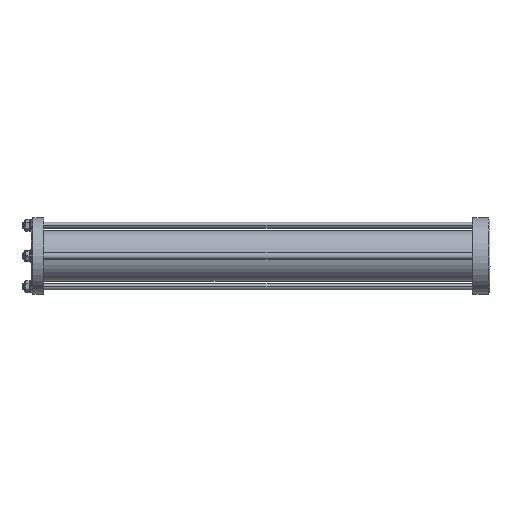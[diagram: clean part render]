
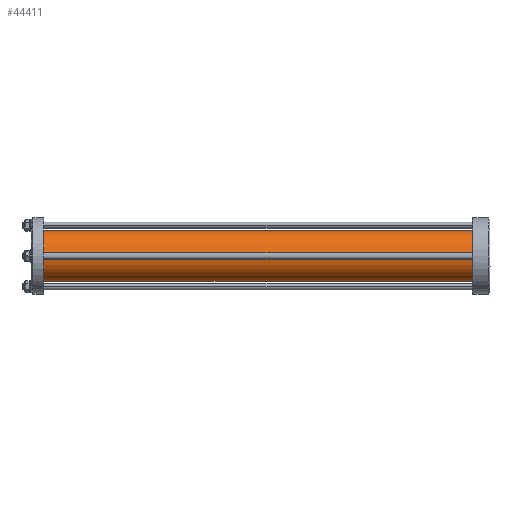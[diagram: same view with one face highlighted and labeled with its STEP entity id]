
A CAD part, left-side view. The second image highlights one B-rep face of the part: STEP entity #44411.
In plain terms, the highlighted cylindrical face has radius 24.5 mm (diameter 49 mm), a partial arc.
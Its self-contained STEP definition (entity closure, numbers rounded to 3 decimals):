
#2790 = LINE ( 'NONE', #24928, #19567 ) ;
#4120 = VERTEX_POINT ( 'NONE', #45280 ) ;
#5031 = EDGE_CURVE ( 'NONE', #34792, #33259, #28096, .T. ) ;
#6208 = DIRECTION ( 'NONE',  ( 0., -1., 0. ) ) ;
#8413 = DIRECTION ( 'NONE',  ( 0., 0., 1. ) ) ;
#9294 = VECTOR ( 'NONE', #6208, 1000. ) ;
#11185 = CIRCLE ( 'NONE', #15913, 24.5 ) ;
#13303 = EDGE_LOOP ( 'NONE', ( #57226, #54093, #42051, #32038 ) ) ;
#15913 = AXIS2_PLACEMENT_3D ( 'NONE', #34803, #56984, #34206 ) ;
#17282 = DIRECTION ( 'NONE',  ( 0., 1., 0. ) ) ;
#19484 = CARTESIAN_POINT ( 'NONE',  ( 40.045, 23.458, 77.117 ) ) ;
#19567 = VECTOR ( 'NONE', #52414, 1000. ) ;
#24928 = CARTESIAN_POINT ( 'NONE',  ( 40.045, 443.458, 77.117 ) ) ;
#27828 = AXIS2_PLACEMENT_3D ( 'NONE', #50647, #28162, #38969 ) ;
#27871 = CYLINDRICAL_SURFACE ( 'NONE', #27828, 24.5 ) ;
#28096 = LINE ( 'NONE', #55878, #9294 ) ;
#28162 = DIRECTION ( 'NONE',  ( 0., -1., 0. ) ) ;
#28450 = CARTESIAN_POINT ( 'NONE',  ( 40.045, 23.458, 126.117 ) ) ;
#28685 = CIRCLE ( 'NONE', #50433, 24.5 ) ;
#30292 = EDGE_CURVE ( 'NONE', #4120, #34792, #28685, .T. ) ;
#32038 = ORIENTED_EDGE ( 'NONE', *, *, #37191, .T. ) ;
#33259 = VERTEX_POINT ( 'NONE', #28450 ) ;
#34206 = DIRECTION ( 'NONE',  ( 0., 0., 1. ) ) ;
#34792 = VERTEX_POINT ( 'NONE', #38469 ) ;
#34803 = CARTESIAN_POINT ( 'NONE',  ( 40.045, 23.458, 101.617 ) ) ;
#36458 = FACE_OUTER_BOUND ( 'NONE', #13303, .T. ) ;
#37191 = EDGE_CURVE ( 'NONE', #48547, #33259, #11185, .T. ) ;
#38469 = CARTESIAN_POINT ( 'NONE',  ( 40.045, 443.458, 126.117 ) ) ;
#38969 = DIRECTION ( 'NONE',  ( 0., 0., -1. ) ) ;
#40589 = CARTESIAN_POINT ( 'NONE',  ( 40.045, 443.458, 101.617 ) ) ;
#42051 = ORIENTED_EDGE ( 'NONE', *, *, #48218, .T. ) ;
#44411 = ADVANCED_FACE ( 'NONE', ( #36458 ), #27871, .T. ) ;
#45280 = CARTESIAN_POINT ( 'NONE',  ( 40.045, 443.458, 77.117 ) ) ;
#48218 = EDGE_CURVE ( 'NONE', #4120, #48547, #2790, .T. ) ;
#48547 = VERTEX_POINT ( 'NONE', #19484 ) ;
#50433 = AXIS2_PLACEMENT_3D ( 'NONE', #40589, #17282, #8413 ) ;
#50647 = CARTESIAN_POINT ( 'NONE',  ( 40.045, 443.458, 101.617 ) ) ;
#52414 = DIRECTION ( 'NONE',  ( 0., -1., 0. ) ) ;
#54093 = ORIENTED_EDGE ( 'NONE', *, *, #30292, .F. ) ;
#55878 = CARTESIAN_POINT ( 'NONE',  ( 40.045, 443.458, 126.117 ) ) ;
#56984 = DIRECTION ( 'NONE',  ( 0., 1., 0. ) ) ;
#57226 = ORIENTED_EDGE ( 'NONE', *, *, #5031, .F. ) ;
